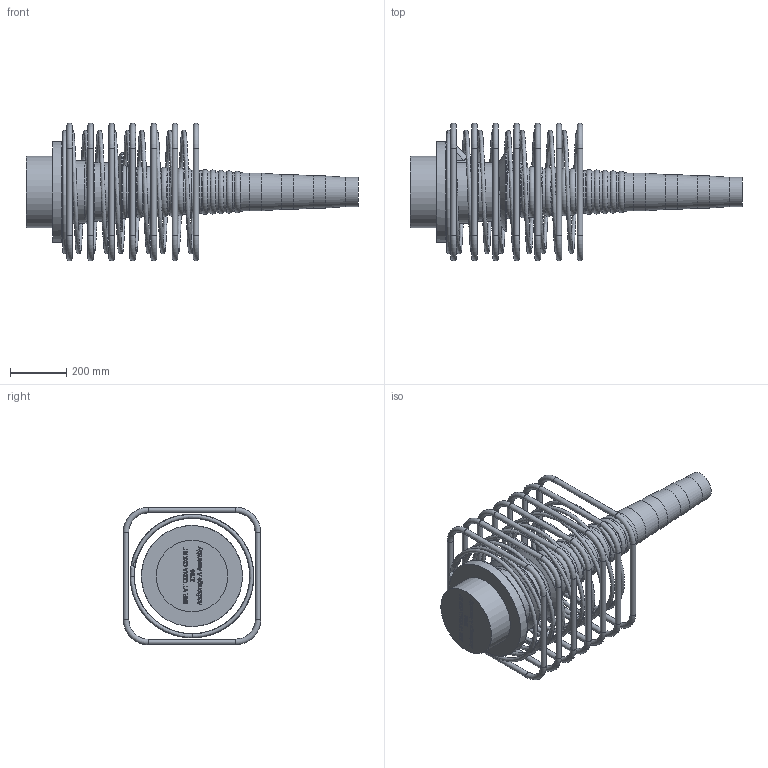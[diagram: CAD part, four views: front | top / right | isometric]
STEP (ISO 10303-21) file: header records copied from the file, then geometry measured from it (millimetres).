
FILE_DESCRIPTION(/* description */ (''),/* implementation_level */ '2;1');
FILE_NAME(/* name */ 'Z:\04 Publications\05 Give-out\BBR\6_3D_Models\BBR VT CONA CMI\BBR VT CONA CMI BT\02706\BBR VT CONA CMI BT 2706_Anchorage A Assembly_CS-34,28.stp',/* time_stamp */ '2017-05-05T10:30:14+02:00',/* author */ ('IP'),/* organization */ (''),/* preprocessor_version */ 'ST-DEVELOPER v16.1',/* originating_system */ 'Autodesk Inventor 2016',/* authorisation */ '');
FILE_SCHEMA (('AUTOMOTIVE_DESIGN { 1 0 10303 214 3 1 1 }'));
Length unit declared in the file: millimetre
Products named in the file (1): BBR VT CONA CMI BT 2706_Anchorage A Assembly_CS-34,28
Bounding box: 1182.27 x 490 x 490 mm (x, y, z)
Volume: 36772327.7 mm3; surface area: 2284975.1 mm2
Topology: 9 solids, 9 shells, 783 faces, 2016 edges, 1289 vertices
Faces by surface type: plane 321, bspline 302, torus 93, cylinder 48, cone 17, sphere 2
Full cylindrical faces by diameter (mm): 20 x28, 34 x1, 57 x1, 104 x1, 114 x1, 124 x1, 134 x1, 208 x1, 255 x1, 279 x1, 283 x1, 360 x1
Entity records: 30218 total; most frequent: CARTESIAN_POINT 12941, ORIENTED_EDGE 3734, DIRECTION 2419, EDGE_CURVE 1867, VERTEX_POINT 1281, LINE 1057, VECTOR 1057, EDGE_LOOP 978
